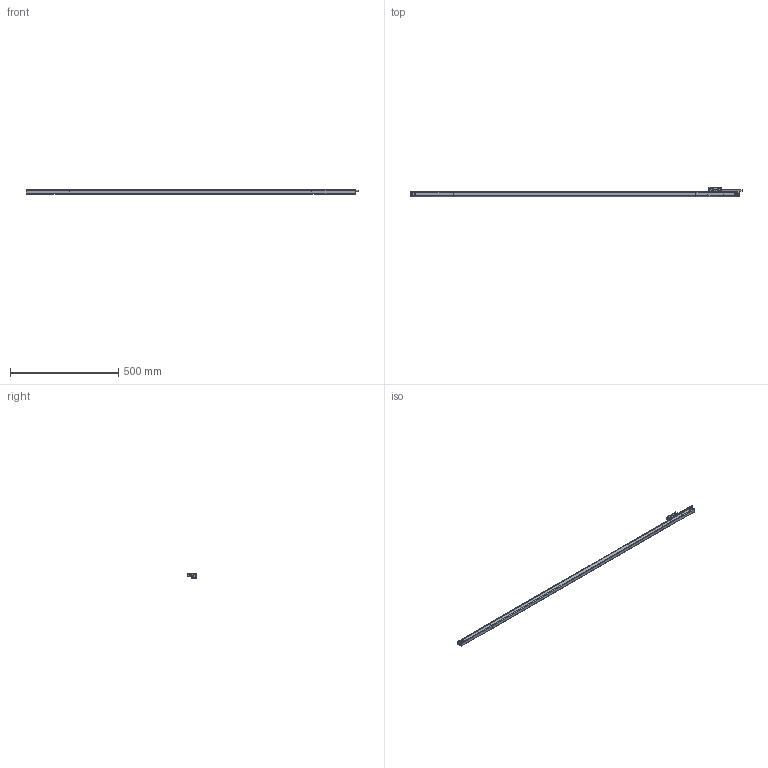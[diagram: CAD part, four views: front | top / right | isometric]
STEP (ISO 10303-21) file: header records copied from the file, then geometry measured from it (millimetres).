
FILE_DESCRIPTION( ( 'STEP AP203' ), '1' );
FILE_NAME( 'N:/Engineering/CAD_Solid/Magnescale/GBER/GB-140ER_SR138-140R.stp', '2013-03-14T10:05:45', ( ' ' ), ( ' ' ), 'XStep 1.0', ' ', ' ' );
FILE_SCHEMA( ( 'CONFIG_CONTROL_DESIGN) ( )' ) );
Length unit declared in the file: metre
Products named in the file (1): 1
Bounding box: 1532.5 x 42 x 21 mm (x, y, z)
Surface area: 146206.7 mm2 (no closed solid volume)
Topology: 0 solids, 237 shells, 237 faces, 1295 edges, 1271 vertices
Faces by surface type: plane 157, cylinder 62, torus 12, cone 6
Full cylindrical faces by diameter (mm): 4 x4, 4.8 x1, 5 x2, 6 x1, 9.8 x2, 10 x2
Entity records: 12572 total; most frequent: CARTESIAN_POINT 2770, DIRECTION 2106, ORIENTED_EDGE 1266, EDGE_CURVE 1266, VERTEX_POINT 1266, LINE 902, VECTOR 902, AXIS2_PLACEMENT_3D 602
